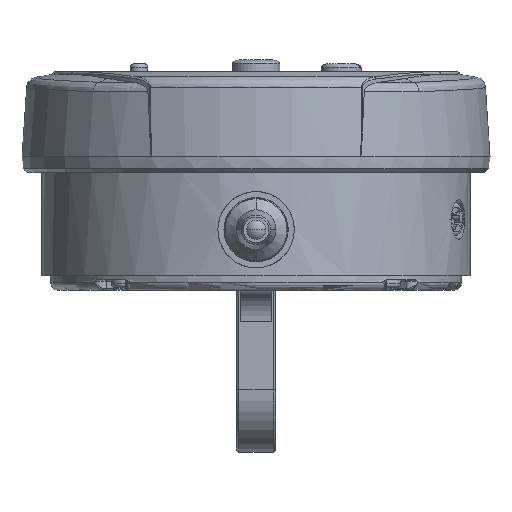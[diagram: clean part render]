
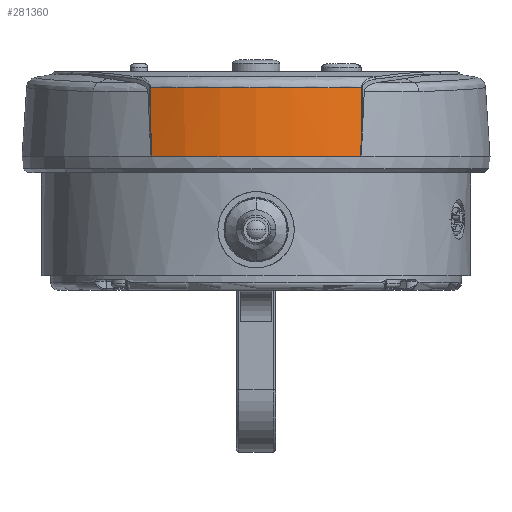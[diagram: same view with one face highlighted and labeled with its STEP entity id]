
A CAD part, front view. The second image highlights one B-rep face of the part: STEP entity #281360.
In plain terms, the highlighted conical face has half-angle 3 degrees and reference radius 29.5 mm.
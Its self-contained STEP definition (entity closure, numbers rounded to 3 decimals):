
#177320=CARTESIAN_POINT('',(-13.175,-26.394,
9.15));
#177330=VERTEX_POINT('',#177320);
#177360=CARTESIAN_POINT('',(0.,0.,
9.15));
#177370=DIRECTION('',(0.,0.,1.));
#177380=DIRECTION('',(0.,-1.,0.));
#177390=AXIS2_PLACEMENT_3D('',#177360,#177370,#177380);
#177400=CIRCLE('',#177390,29.5);
#177410=CARTESIAN_POINT('',(13.175,-26.394,
9.15));
#177420=VERTEX_POINT('',#177410);
#177430=EDGE_CURVE('',#177330,#177420,#177400,.T.);
#262410=CARTESIAN_POINT('',(-13.281,-25.83,
17.85));
#262420=VERTEX_POINT('',#262410);
#280970=CARTESIAN_POINT('',(0.,0.,9.15));
#280980=DIRECTION('',(0.,0.,-1.));
#280990=DIRECTION('',(0.,-1.,0.));
#281000=AXIS2_PLACEMENT_3D('',#280970,#280980,#280990);
#281010=CONICAL_SURFACE('',#281000,29.5,0.052);
#281020=CARTESIAN_POINT('',(0.,0.,17.85));
#281030=DIRECTION('',(0.,0.,1.));
#281040=DIRECTION('',(0.,-1.,0.));
#281050=AXIS2_PLACEMENT_3D('',#281020,#281030,#281040);
#281060=CIRCLE('',#281050,29.044);
#281070=CARTESIAN_POINT('',(13.281,-25.83,
17.85));
#281080=VERTEX_POINT('',#281070);
#281090=EDGE_CURVE('',#262420,#281080,#281060,.T.);
#281100=ORIENTED_EDGE('',*,*,#281090,.F.);
#281110=CARTESIAN_POINT('',(13.172,-26.414,
8.851));
#281120=CARTESIAN_POINT('',(13.191,-26.313,
10.401));
#281130=CARTESIAN_POINT('',(13.21,-26.213,
11.952));
#281140=CARTESIAN_POINT('',(13.246,-26.019,
14.948));
#281150=CARTESIAN_POINT('',(13.263,-25.925,
16.393));
#281160=CARTESIAN_POINT('',(13.281,-25.83,
17.842));
#281170=CARTESIAN_POINT('',(13.281,-25.83,
17.846));
#281180=CARTESIAN_POINT('',(13.281,-25.83,
17.85));
#281190=B_SPLINE_CURVE_WITH_KNOTS('',3,(#281110,#281120,#281130,#281140,
#281150,#281160,#281170,#281180),.UNSPECIFIED.,.F.,.F.,(4,2,2,4),(
37.654,42.315,46.662,46.672),
.UNSPECIFIED.);
#281200=EDGE_CURVE('',#177420,#281080,#281190,.T.);
#281210=ORIENTED_EDGE('',*,*,#281200,.T.);
#281220=ORIENTED_EDGE('',*,*,#177430,.T.);
#281230=CARTESIAN_POINT('',(-13.281,-25.83,
17.85));
#281240=CARTESIAN_POINT('',(-13.281,-25.83,
17.846));
#281250=CARTESIAN_POINT('',(-13.281,-25.83,
17.842));
#281260=CARTESIAN_POINT('',(-13.263,-25.925,
16.393));
#281270=CARTESIAN_POINT('',(-13.246,-26.019,
14.948));
#281280=CARTESIAN_POINT('',(-13.21,-26.213,
11.952));
#281290=CARTESIAN_POINT('',(-13.191,-26.313,
10.401));
#281300=CARTESIAN_POINT('',(-13.172,-26.414,
8.851));
#281310=B_SPLINE_CURVE_WITH_KNOTS('',3,(#281230,#281240,#281250,#281260,
#281270,#281280,#281290,#281300),.UNSPECIFIED.,.F.,.F.,(4,2,2,4),(0.,
0.011,4.357,9.018),.UNSPECIFIED.);
#281320=EDGE_CURVE('',#262420,#177330,#281310,.T.);
#281330=ORIENTED_EDGE('',*,*,#281320,.T.);
#281340=EDGE_LOOP('',(#281330,#281220,#281210,#281100));
#281350=FACE_OUTER_BOUND('',#281340,.T.);
#281360=ADVANCED_FACE('',(#281350),#281010,.T.);
